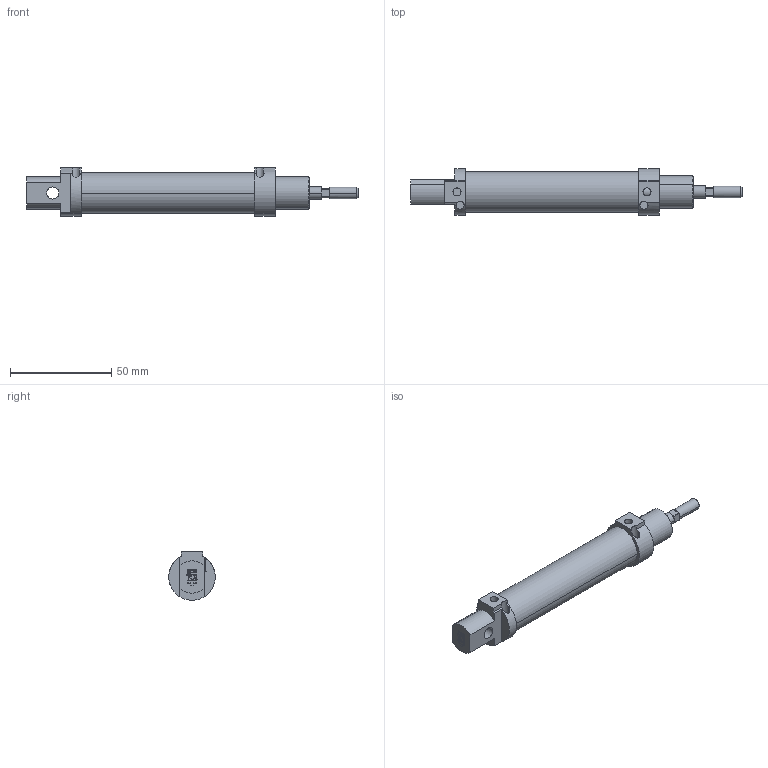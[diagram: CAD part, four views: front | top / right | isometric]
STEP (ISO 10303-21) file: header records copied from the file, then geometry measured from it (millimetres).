
FILE_DESCRIPTION(('CATIA V5 STEP Exchange'),'2;1');
FILE_NAME('D:\stp file for catalog\PSN\16\PSN-16-06-50.stp','2018-04-25T10:50:31+00:00',('none'),('none'),'CATIA Version 5-6 Release 2016','CATIA V5 STEP AP203','none');
FILE_SCHEMA(('CONFIG_CONTROL_DESIGN'));
Length unit declared in the file: millimetre
Products named in the file (1): PSN-16-06-50-00
Assembly tree (2 placements, depth 2):
  PSN-16-06-50-00
    #57
    #4950
Bounding box: 164.25 x 23 x 24 mm (x, y, z)
Volume: 29848.1 mm3; surface area: 20212 mm2
Topology: 2 solids, 2 shells, 200 faces, 502 edges, 330 vertices
Faces by surface type: plane 134, cylinder 58, cone 8
Entity records: 5640 total; most frequent: CARTESIAN_POINT 1068, ORIENTED_EDGE 1004, DIRECTION 751, EDGE_CURVE 502, VECTOR 352, LINE 352, VERTEX_POINT 330, AXIS2_PLACEMENT_3D 270
